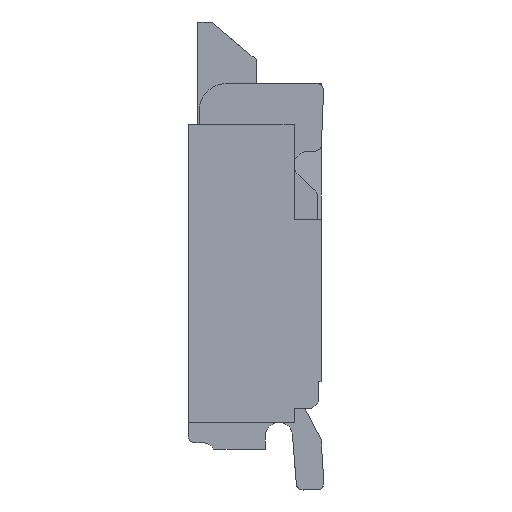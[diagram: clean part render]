
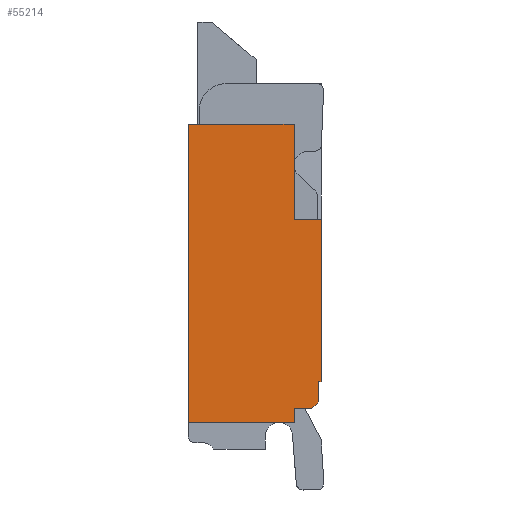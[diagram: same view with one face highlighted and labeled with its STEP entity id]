
A CAD part, left-side view. The second image highlights one B-rep face of the part: STEP entity #55214.
In plain terms, the highlighted planar face has unit normal (-1, 0, 0).
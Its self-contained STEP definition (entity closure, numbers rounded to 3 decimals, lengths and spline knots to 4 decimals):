
#21=DIRECTION('',(0.,0.,1.));
#22=VECTOR('',#21,1.2);
#23=CARTESIAN_POINT('',(0.,0.02,-2.655));
#24=LINE('',#23,#22);
#3043=DIRECTION('',(0.,-1.,0.));
#3044=VECTOR('',#3043,0.13);
#3045=CARTESIAN_POINT('',(0.,0.22,-2.855));
#3046=LINE('',#3045,#3044);
#4237=DIRECTION('',(0.,0.,-1.));
#4238=VECTOR('',#4237,2.2);
#4239=CARTESIAN_POINT('',(0.,1.,-0.755));
#4240=LINE('',#4239,#4238);
#13888=DIRECTION('',(0.,1.,0.));
#13889=VECTOR('',#13888,0.2);
#13890=CARTESIAN_POINT('',(0.,0.02,-1.455));
#13891=LINE('',#13890,#13889);
#14192=DIRECTION('',(0.,-1.,0.));
#14193=VECTOR('',#14192,0.78);
#14194=CARTESIAN_POINT('',(0.,1.,-2.955));
#14195=LINE('',#14194,#14193);
#17100=DIRECTION('',(0.,1.,0.));
#17101=VECTOR('',#17100,0.02);
#17102=CARTESIAN_POINT('',(0.,0.02,-2.655));
#17103=LINE('',#17102,#17101);
#17104=DIRECTION('',(0.,0.,-1.));
#17105=VECTOR('',#17104,0.15);
#17106=CARTESIAN_POINT('',(0.,0.04,-2.655));
#17107=LINE('',#17106,#17105);
#17108=DIRECTION('',(0.,0.707,-0.707));
#17109=VECTOR('',#17108,0.0707);
#17110=CARTESIAN_POINT('',(0.,0.04,-2.805));
#17111=LINE('',#17110,#17109);
#17112=DIRECTION('',(0.,0.,-1.));
#17113=VECTOR('',#17112,0.1);
#17114=CARTESIAN_POINT('',(0.,0.22,-2.855));
#17115=LINE('',#17114,#17113);
#17116=DIRECTION('',(0.,-1.,0.));
#17117=VECTOR('',#17116,0.78);
#17118=CARTESIAN_POINT('',(0.,1.,-0.755));
#17119=LINE('',#17118,#17117);
#17120=DIRECTION('',(0.,0.,-1.));
#17121=VECTOR('',#17120,0.7);
#17122=CARTESIAN_POINT('',(0.,0.22,-0.755));
#17123=LINE('',#17122,#17121);
#28301=CARTESIAN_POINT('',(0.,0.02,-2.655));
#28302=VERTEX_POINT('',#28301);
#28303=CARTESIAN_POINT('',(0.,0.02,-1.455));
#28304=VERTEX_POINT('',#28303);
#29622=CARTESIAN_POINT('',(0.,0.09,-2.855));
#29624=VERTEX_POINT('',#29622);
#29919=CARTESIAN_POINT('',(0.,0.22,-2.855));
#29920=VERTEX_POINT('',#29919);
#29922=CARTESIAN_POINT('',(0.,0.04,-2.805));
#29924=VERTEX_POINT('',#29922);
#29926=CARTESIAN_POINT('',(0.,0.04,-2.655));
#29928=VERTEX_POINT('',#29926);
#30367=CARTESIAN_POINT('',(0.,1.,-0.755));
#30368=VERTEX_POINT('',#30367);
#30369=CARTESIAN_POINT('',(0.,1.,-2.955));
#30370=VERTEX_POINT('',#30369);
#33498=CARTESIAN_POINT('',(0.,0.22,-1.455));
#33499=VERTEX_POINT('',#33498);
#33588=CARTESIAN_POINT('',(0.,0.22,-2.955));
#33589=VERTEX_POINT('',#33588);
#34168=CARTESIAN_POINT('',(0.,0.22,-0.755));
#34169=VERTEX_POINT('',#34168);
#55193=CARTESIAN_POINT('',(0.,0.51,-1.855));
#55194=DIRECTION('',(1.,0.,0.));
#55195=DIRECTION('',(0.,0.,-1.));
#55196=AXIS2_PLACEMENT_3D('',#55193,#55194,#55195);
#55197=PLANE('',#55196);
#55198=ORIENTED_EDGE('',*,*,#39667,.T.);
#55199=ORIENTED_EDGE('',*,*,#39653,.T.);
#55200=ORIENTED_EDGE('',*,*,#39638,.T.);
#55201=ORIENTED_EDGE('',*,*,#39623,.F.);
#55203=ORIENTED_EDGE('',*,*,#55202,.T.);
#55204=ORIENTED_EDGE('',*,*,#50270,.F.);
#55205=ORIENTED_EDGE('',*,*,#40652,.F.);
#55207=ORIENTED_EDGE('',*,*,#55206,.T.);
#55209=ORIENTED_EDGE('',*,*,#55208,.T.);
#55210=ORIENTED_EDGE('',*,*,#49782,.F.);
#55211=ORIENTED_EDGE('',*,*,#36907,.F.);
#55212=EDGE_LOOP('',(#55198,#55199,#55200,#55201,#55203,#55204,#55205,#55207,
#55209,#55210,#55211));
#55213=FACE_OUTER_BOUND('',#55212,.F.);
#36907=EDGE_CURVE('',#28302,#28304,#24,.T.);
#39623=EDGE_CURVE('',#29920,#29624,#3046,.T.);
#39638=EDGE_CURVE('',#29924,#29624,#17111,.T.);
#39653=EDGE_CURVE('',#29928,#29924,#17107,.T.);
#39667=EDGE_CURVE('',#28302,#29928,#17103,.T.);
#40652=EDGE_CURVE('',#30368,#30370,#4240,.T.);
#49782=EDGE_CURVE('',#28304,#33499,#13891,.T.);
#50270=EDGE_CURVE('',#30370,#33589,#14195,.T.);
#55202=EDGE_CURVE('',#29920,#33589,#17115,.T.);
#55206=EDGE_CURVE('',#30368,#34169,#17119,.T.);
#55208=EDGE_CURVE('',#34169,#33499,#17123,.T.);
#55214=ADVANCED_FACE('',(#55213),#55197,.F.);
